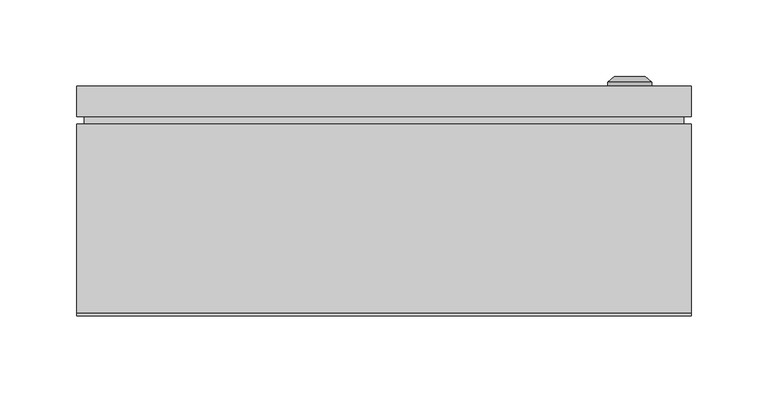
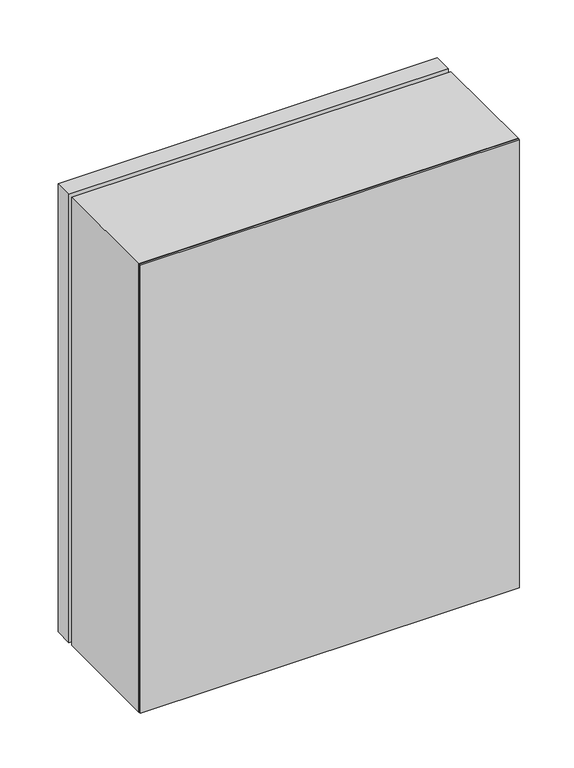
"""IFC4 building model written with IfcOpenShell, lengths in millimetres: proxy geometry, ЩМП_IP65 : ЩМП-2-1_500х400х150."""

from ifc_helpers import new_model, si_unit, frame, origin, origin_with_axes, place, context, project, spatial, polyline, circle_curve, outline, extrude, source, transform, mapped, element, save
from ifc_brep_helpers import plane_surface, cylinder_surface, revolved_surface, advanced_brep


def electrical_equipment_1f3abc2e(model_context):
    return source(origin(), model_context, "Body", "SolidModel", [
        extrude(outline(polyline([(195.0, 125.0), (-195.0, 125.0), (-195.0, 130.0), (195.0, 130.0), (195.0, 125.0)])), frame((0.0, 0.0, 5.0), z_axis=(0.0, 0.0, 1.0), x_axis=(1.0, 0.0, 0.0)), (0.0, 0.0, 1.0), 490.0),
        extrude(outline(polyline([(200.0, 130.0), (-200.0, 130.0), (-200.0, 150.0), (200.0, 150.0), (200.0, 130.0)])), origin_with_axes(), (0.0, 0.0, 1.0), 500.0),
        advanced_brep(
        [(145.669873, 150.0, 250.0), (174.330127, 150.0, 250.0), (160.0, 150.0, 250.0), (145.669873, 152.366592, 250.0), (174.330127, 152.366592, 250.0), (150.0, 156.0, 250.0), (170.0, 156.0, 250.0), (158.1080471, 156.0, 250.0), (161.8919529, 156.0, 250.0), (158.1080471, 154.9822294, 250.0), (161.8919529, 154.9822294, 250.0), (160.0, 154.9822294, 250.0)],
        [
            (0, 1, circle_curve(frame((160.0, 150.0, 250.0), z_axis=(0.0, -1.0, 0.0), x_axis=(1.0, 0.0, 0.0)), 14.330127)),
            (1, 2),
            (2, 0),
            (1, 0, circle_curve(frame((160.0, 150.0, 250.0), z_axis=(0.0, -1.0, 0.0), x_axis=(1.0, 0.0, 0.0)), 14.330127)),
            (3, 4, circle_curve(frame((160.0, 152.366592, 250.0), z_axis=(0.0, -1.0, 0.0), x_axis=(1.0, 0.0, 0.0)), 14.330127)),
            (4, 1),
            (0, 3),
            (4, 3, circle_curve(frame((160.0, 152.366592, 250.0), z_axis=(0.0, -1.0, 0.0), x_axis=(1.0, 0.0, 0.0)), 14.330127)),
            (5, 6, circle_curve(frame((160.0, 156.0, 250.0), z_axis=(0.0, -1.0, 0.0), x_axis=(1.0, 0.0, 0.0)), 10.0)),
            (6, 4),
            (3, 5),
            (6, 5, circle_curve(frame((160.0, 156.0, 250.0), z_axis=(0.0, -1.0, 0.0), x_axis=(1.0, 0.0, 0.0)), 10.0)),
            (7, 8, circle_curve(frame((160.0, 156.0, 250.0), z_axis=(0.0, -1.0, 0.0), x_axis=(1.0, 0.0, 0.0)), 1.8919529)),
            (8, 6),
            (5, 7),
            (8, 7, circle_curve(frame((160.0, 156.0, 250.0), z_axis=(0.0, -1.0, 0.0), x_axis=(1.0, 0.0, 0.0)), 1.8919529)),
            (9, 10, circle_curve(frame((160.0, 154.9822294, 250.0), z_axis=(0.0, -1.0, 0.0), x_axis=(1.0, 0.0, 0.0)), 1.8919529)),
            (10, 8),
            (7, 9),
            (10, 9, circle_curve(frame((160.0, 154.9822294, 250.0), z_axis=(0.0, -1.0, 0.0), x_axis=(1.0, 0.0, 0.0)), 1.8919529)),
            (11, 10),
            (9, 11),
        ],
        [
            plane_surface(frame((160.0, 150.0, 250.0), z_axis=(0.0, -1.0, 0.0), x_axis=(1.0, 0.0, 0.0))),
            cylinder_surface(frame((160.0, 163.1348851, 250.0), z_axis=(0.0, 1.0, 0.0), x_axis=(1.0, 0.0, 0.0)), 14.330127),
            revolved_surface(polyline([(174.330127, 152.366592, 250.0), (170.0, 156.0, 250.0)]), (160.0, 163.1348851, 250.0), (0.0, 1.0, 0.0)),
            plane_surface(frame((160.0, 156.0, 250.0), z_axis=(0.0, 1.0, 0.0), x_axis=(1.0, 0.0, 0.0))),
            revolved_surface(polyline([(161.8919529, 156.0, 250.0), (161.8919529, 154.9822294, 250.0)]), (160.0, 163.1348851, 250.0), (0.0, 1.0, 0.0)),
            plane_surface(frame((160.0, 154.9822294, 250.0), z_axis=(0.0, 1.0, 0.0), x_axis=(1.0, 0.0, 0.0))),
        ],
        [
            (0, [[1, 2, 3]]),
            (0, [[4, -3, -2]]),
            (1, [[5, 6, -1, 7]]),
            (1, [[8, -7, -4, -6]]),
            (2, [[9, 10, -5, 11]]),
            (2, [[12, -11, -8, -10]]),
            (3, [[13, 14, -9, 15]]),
            (3, [[16, -15, -12, -14]]),
            (4, [[17, 18, -13, 19]]),
            (4, [[20, -19, -16, -18]]),
            (5, [[21, -17, 22]]),
            (5, [[-22, -20, -21]]),
        ],
    ),
        extrude(outline(polyline([(500.0, -200.0033905), (0.0, -200.0033905), (0.0, 199.9966095), (500.0, 199.9966095), (500.0, -200.0033905)]), holes=[polyline([(465.0, -170.0033905), (465.0, 169.9966095), (35.0, 169.9966095), (35.0, -170.0033905), (465.0, -170.0033905)])]), frame((0.0, 2.0, 0.0), z_axis=(0.0, 1.0, 0.0), x_axis=(0.0, 0.0, 1.0)), (0.0, 0.0, 1.0), 123.0),
        extrude(outline(polyline([(200.0, 0.0), (-200.0, 0.0), (-200.0, 2.0), (200.0, 2.0), (200.0, 0.0)])), origin_with_axes(), (0.0, 0.0, 1.0), 500.0),
    ])


if __name__ == "__main__":
    model = new_model("IFC4")
    model_context = context("Model", 3, world=origin())
    ifc_project = project(units=[si_unit("LENGTHUNIT", "METRE", prefix="MILLI")], contexts=[model_context])
    site = spatial("IfcSite", under=ifc_project)
    building = spatial("IfcBuilding", under=site)
    placement = place(None, origin())
    electrical_equipment_shape = electrical_equipment_1f3abc2e(model_context)
    element("IfcBuildingElementProxy", 1, Name="ЩМП_IP65 : ЩМП-2-1_500х400х150", ObjectType="ЩМП_IP65 : ЩМП-2-1_500х400х150", at=placement, inside=building, context=model_context, shape_type="MappedRepresentation", body=[
        mapped(electrical_equipment_shape, transform((0.0, 0.0, 0.0), x_axis=(1.0, 0.0, 0.0), y_axis=(0.0, 1.0, 0.0), z_axis=(0.0, 0.0, 1.0))),
    ])
    save(model, "model.ifc")
